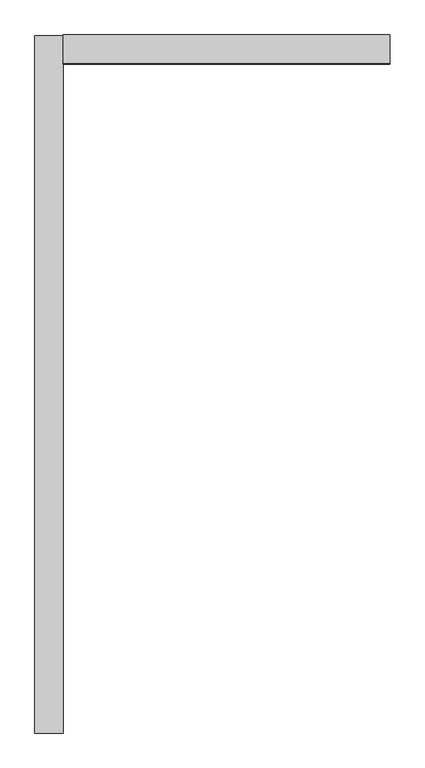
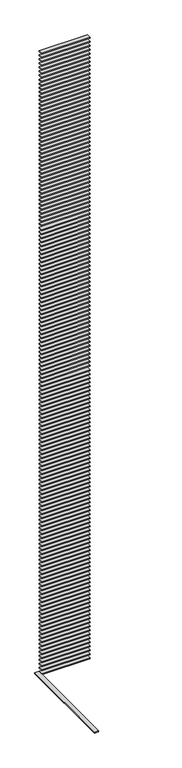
"""IFC4 building model written with IfcOpenShell, lengths in millimetres: proxy geometry, 水平ルーバー（Ｌ型） : ｈ50ｄ200＠200."""

from ifc_helpers import new_model, si_unit, frame, origin, place, context, project, spatial, polyline, outline, extrude, source, transform, mapped, element, save


def generic_models_a66b474c(model_context):
    return source(origin(), model_context, "Body", "SweptSolid", [
        extrude(outline(polyline([(-100.0, -4895.0), (-300.0, -4895.0), (-300.0, 0.0), (-100.0, 0.0), (-100.0, -4895.0)])), frame((0.0, 0.0, -25.0), z_axis=(0.0, 0.0, 1.0), x_axis=(1.0, 0.0, 0.0)), (0.0, 0.0, 1.0), 50.0),
        extrude(outline(polyline([(-100.0, -200.0), (-100.0, 0.0), (2195.0, 0.0), (2195.0, -200.0), (-100.0, -200.0)])), frame((0.0, 0.0, 30975.0), z_axis=(0.0, 0.0, 1.0), x_axis=(1.0, 0.0, 0.0)), (0.0, 0.0, 1.0), 50.0),
        extrude(outline(polyline([(-100.0, -200.0), (-100.0, 0.0), (2195.0, 0.0), (2195.0, -200.0), (-100.0, -200.0)])), frame((0.0, 0.0, 30775.0), z_axis=(0.0, 0.0, 1.0), x_axis=(1.0, 0.0, 0.0)), (0.0, 0.0, 1.0), 50.0),
        extrude(outline(polyline([(-100.0, -200.0), (-100.0, 0.0), (2195.0, 0.0), (2195.0, -200.0), (-100.0, -200.0)])), frame((0.0, 0.0, 30575.0), z_axis=(0.0, 0.0, 1.0), x_axis=(1.0, 0.0, 0.0)), (0.0, 0.0, 1.0), 50.0),
        extrude(outline(polyline([(-100.0, -200.0), (-100.0, 0.0), (2195.0, 0.0), (2195.0, -200.0), (-100.0, -200.0)])), frame((0.0, 0.0, 30375.0), z_axis=(0.0, 0.0, 1.0), x_axis=(1.0, 0.0, 0.0)), (0.0, 0.0, 1.0), 50.0),
        extrude(outline(polyline([(-100.0, -200.0), (-100.0, 0.0), (2195.0, 0.0), (2195.0, -200.0), (-100.0, -200.0)])), frame((0.0, 0.0, 30175.0), z_axis=(0.0, 0.0, 1.0), x_axis=(1.0, 0.0, 0.0)), (0.0, 0.0, 1.0), 50.0),
        extrude(outline(polyline([(-100.0, -200.0), (-100.0, 0.0), (2195.0, 0.0), (2195.0, -200.0), (-100.0, -200.0)])), frame((0.0, 0.0, 29975.0), z_axis=(0.0, 0.0, 1.0), x_axis=(1.0, 0.0, 0.0)), (0.0, 0.0, 1.0), 50.0),
        extrude(outline(polyline([(-100.0, -200.0), (-100.0, 0.0), (2195.0, 0.0), (2195.0, -200.0), (-100.0, -200.0)])), frame((0.0, 0.0, 29775.0), z_axis=(0.0, 0.0, 1.0), x_axis=(1.0, 0.0, 0.0)), (0.0, 0.0, 1.0), 50.0),
        extrude(outline(polyline([(-100.0, -200.0), (-100.0, 0.0), (2195.0, 0.0), (2195.0, -200.0), (-100.0, -200.0)])), frame((0.0, 0.0, 29575.0), z_axis=(0.0, 0.0, 1.0), x_axis=(1.0, 0.0, 0.0)), (0.0, 0.0, 1.0), 50.0),
        extrude(outline(polyline([(-100.0, -200.0), (-100.0, 0.0), (2195.0, 0.0), (2195.0, -200.0), (-100.0, -200.0)])), frame((0.0, 0.0, 29375.0), z_axis=(0.0, 0.0, 1.0), x_axis=(1.0, 0.0, 0.0)), (0.0, 0.0, 1.0), 50.0),
        extrude(outline(polyline([(-100.0, -200.0), (-100.0, 0.0), (2195.0, 0.0), (2195.0, -200.0), (-100.0, -200.0)])), frame((0.0, 0.0, 29175.0), z_axis=(0.0, 0.0, 1.0), x_axis=(1.0, 0.0, 0.0)), (0.0, 0.0, 1.0), 50.0),
        extrude(outline(polyline([(-100.0, -200.0), (-100.0, 0.0), (2195.0, 0.0), (2195.0, -200.0), (-100.0, -200.0)])), frame((0.0, 0.0, 28975.0), z_axis=(0.0, 0.0, 1.0), x_axis=(1.0, 0.0, 0.0)), (0.0, 0.0, 1.0), 50.0),
        extrude(outline(polyline([(-100.0, -200.0), (-100.0, 0.0), (2195.0, 0.0), (2195.0, -200.0), (-100.0, -200.0)])), frame((0.0, 0.0, 28775.0), z_axis=(0.0, 0.0, 1.0), x_axis=(1.0, 0.0, 0.0)), (0.0, 0.0, 1.0), 50.0),
        extrude(outline(polyline([(-100.0, -200.0), (-100.0, 0.0), (2195.0, 0.0), (2195.0, -200.0), (-100.0, -200.0)])), frame((0.0, 0.0, 28575.0), z_axis=(0.0, 0.0, 1.0), x_axis=(1.0, 0.0, 0.0)), (0.0, 0.0, 1.0), 50.0),
        extrude(outline(polyline([(-100.0, -200.0), (-100.0, 0.0), (2195.0, 0.0), (2195.0, -200.0), (-100.0, -200.0)])), frame((0.0, 0.0, 28375.0), z_axis=(0.0, 0.0, 1.0), x_axis=(1.0, 0.0, 0.0)), (0.0, 0.0, 1.0), 50.0),
        extrude(outline(polyline([(-100.0, -200.0), (-100.0, 0.0), (2195.0, 0.0), (2195.0, -200.0), (-100.0, -200.0)])), frame((0.0, 0.0, 28175.0), z_axis=(0.0, 0.0, 1.0), x_axis=(1.0, 0.0, 0.0)), (0.0, 0.0, 1.0), 50.0),
        extrude(outline(polyline([(-100.0, -200.0), (-100.0, 0.0), (2195.0, 0.0), (2195.0, -200.0), (-100.0, -200.0)])), frame((0.0, 0.0, 27975.0), z_axis=(0.0, 0.0, 1.0), x_axis=(1.0, 0.0, 0.0)), (0.0, 0.0, 1.0), 50.0),
        extrude(outline(polyline([(-100.0, -200.0), (-100.0, 0.0), (2195.0, 0.0), (2195.0, -200.0), (-100.0, -200.0)])), frame((0.0, 0.0, 27775.0), z_axis=(0.0, 0.0, 1.0), x_axis=(1.0, 0.0, 0.0)), (0.0, 0.0, 1.0), 50.0),
        extrude(outline(polyline([(-100.0, -200.0), (-100.0, 0.0), (2195.0, 0.0), (2195.0, -200.0), (-100.0, -200.0)])), frame((0.0, 0.0, 27575.0), z_axis=(0.0, 0.0, 1.0), x_axis=(1.0, 0.0, 0.0)), (0.0, 0.0, 1.0), 50.0),
        extrude(outline(polyline([(-100.0, -200.0), (-100.0, 0.0), (2195.0, 0.0), (2195.0, -200.0), (-100.0, -200.0)])), frame((0.0, 0.0, 27375.0), z_axis=(0.0, 0.0, 1.0), x_axis=(1.0, 0.0, 0.0)), (0.0, 0.0, 1.0), 50.0),
        extrude(outline(polyline([(-100.0, -200.0), (-100.0, 0.0), (2195.0, 0.0), (2195.0, -200.0), (-100.0, -200.0)])), frame((0.0, 0.0, 27175.0), z_axis=(0.0, 0.0, 1.0), x_axis=(1.0, 0.0, 0.0)), (0.0, 0.0, 1.0), 50.0),
        extrude(outline(polyline([(-100.0, -200.0), (-100.0, 0.0), (2195.0, 0.0), (2195.0, -200.0), (-100.0, -200.0)])), frame((0.0, 0.0, 26975.0), z_axis=(0.0, 0.0, 1.0), x_axis=(1.0, 0.0, 0.0)), (0.0, 0.0, 1.0), 50.0),
        extrude(outline(polyline([(-100.0, -200.0), (-100.0, 0.0), (2195.0, 0.0), (2195.0, -200.0), (-100.0, -200.0)])), frame((0.0, 0.0, 26775.0), z_axis=(0.0, 0.0, 1.0), x_axis=(1.0, 0.0, 0.0)), (0.0, 0.0, 1.0), 50.0),
        extrude(outline(polyline([(-100.0, -200.0), (-100.0, 0.0), (2195.0, 0.0), (2195.0, -200.0), (-100.0, -200.0)])), frame((0.0, 0.0, 26575.0), z_axis=(0.0, 0.0, 1.0), x_axis=(1.0, 0.0, 0.0)), (0.0, 0.0, 1.0), 50.0),
        extrude(outline(polyline([(-100.0, -200.0), (-100.0, 0.0), (2195.0, 0.0), (2195.0, -200.0), (-100.0, -200.0)])), frame((0.0, 0.0, 26375.0), z_axis=(0.0, 0.0, 1.0), x_axis=(1.0, 0.0, 0.0)), (0.0, 0.0, 1.0), 50.0),
        extrude(outline(polyline([(-100.0, -200.0), (-100.0, 0.0), (2195.0, 0.0), (2195.0, -200.0), (-100.0, -200.0)])), frame((0.0, 0.0, 26175.0), z_axis=(0.0, 0.0, 1.0), x_axis=(1.0, 0.0, 0.0)), (0.0, 0.0, 1.0), 50.0),
        extrude(outline(polyline([(-100.0, -200.0), (-100.0, 0.0), (2195.0, 0.0), (2195.0, -200.0), (-100.0, -200.0)])), frame((0.0, 0.0, 25975.0), z_axis=(0.0, 0.0, 1.0), x_axis=(1.0, 0.0, 0.0)), (0.0, 0.0, 1.0), 50.0),
        extrude(outline(polyline([(-100.0, -200.0), (-100.0, 0.0), (2195.0, 0.0), (2195.0, -200.0), (-100.0, -200.0)])), frame((0.0, 0.0, 25775.0), z_axis=(0.0, 0.0, 1.0), x_axis=(1.0, 0.0, 0.0)), (0.0, 0.0, 1.0), 50.0),
        extrude(outline(polyline([(-100.0, -200.0), (-100.0, 0.0), (2195.0, 0.0), (2195.0, -200.0), (-100.0, -200.0)])), frame((0.0, 0.0, 25575.0), z_axis=(0.0, 0.0, 1.0), x_axis=(1.0, 0.0, 0.0)), (0.0, 0.0, 1.0), 50.0),
        extrude(outline(polyline([(-100.0, -200.0), (-100.0, 0.0), (2195.0, 0.0), (2195.0, -200.0), (-100.0, -200.0)])), frame((0.0, 0.0, 25375.0), z_axis=(0.0, 0.0, 1.0), x_axis=(1.0, 0.0, 0.0)), (0.0, 0.0, 1.0), 50.0),
        extrude(outline(polyline([(-100.0, -200.0), (-100.0, 0.0), (2195.0, 0.0), (2195.0, -200.0), (-100.0, -200.0)])), frame((0.0, 0.0, 25175.0), z_axis=(0.0, 0.0, 1.0), x_axis=(1.0, 0.0, 0.0)), (0.0, 0.0, 1.0), 50.0),
        extrude(outline(polyline([(-100.0, -200.0), (-100.0, 0.0), (2195.0, 0.0), (2195.0, -200.0), (-100.0, -200.0)])), frame((0.0, 0.0, 24975.0), z_axis=(0.0, 0.0, 1.0), x_axis=(1.0, 0.0, 0.0)), (0.0, 0.0, 1.0), 50.0),
        extrude(outline(polyline([(-100.0, -200.0), (-100.0, 0.0), (2195.0, 0.0), (2195.0, -200.0), (-100.0, -200.0)])), frame((0.0, 0.0, 24775.0), z_axis=(0.0, 0.0, 1.0), x_axis=(1.0, 0.0, 0.0)), (0.0, 0.0, 1.0), 50.0),
        extrude(outline(polyline([(-100.0, -200.0), (-100.0, 0.0), (2195.0, 0.0), (2195.0, -200.0), (-100.0, -200.0)])), frame((0.0, 0.0, 24575.0), z_axis=(0.0, 0.0, 1.0), x_axis=(1.0, 0.0, 0.0)), (0.0, 0.0, 1.0), 50.0),
        extrude(outline(polyline([(-100.0, -200.0), (-100.0, 0.0), (2195.0, 0.0), (2195.0, -200.0), (-100.0, -200.0)])), frame((0.0, 0.0, 24375.0), z_axis=(0.0, 0.0, 1.0), x_axis=(1.0, 0.0, 0.0)), (0.0, 0.0, 1.0), 50.0),
        extrude(outline(polyline([(-100.0, -200.0), (-100.0, 0.0), (2195.0, 0.0), (2195.0, -200.0), (-100.0, -200.0)])), frame((0.0, 0.0, 24175.0), z_axis=(0.0, 0.0, 1.0), x_axis=(1.0, 0.0, 0.0)), (0.0, 0.0, 1.0), 50.0),
        extrude(outline(polyline([(-100.0, -200.0), (-100.0, 0.0), (2195.0, 0.0), (2195.0, -200.0), (-100.0, -200.0)])), frame((0.0, 0.0, 23975.0), z_axis=(0.0, 0.0, 1.0), x_axis=(1.0, 0.0, 0.0)), (0.0, 0.0, 1.0), 50.0),
        extrude(outline(polyline([(-100.0, -200.0), (-100.0, 0.0), (2195.0, 0.0), (2195.0, -200.0), (-100.0, -200.0)])), frame((0.0, 0.0, 23775.0), z_axis=(0.0, 0.0, 1.0), x_axis=(1.0, 0.0, 0.0)), (0.0, 0.0, 1.0), 50.0),
        extrude(outline(polyline([(-100.0, -200.0), (-100.0, 0.0), (2195.0, 0.0), (2195.0, -200.0), (-100.0, -200.0)])), frame((0.0, 0.0, 23575.0), z_axis=(0.0, 0.0, 1.0), x_axis=(1.0, 0.0, 0.0)), (0.0, 0.0, 1.0), 50.0),
        extrude(outline(polyline([(-100.0, -200.0), (-100.0, 0.0), (2195.0, 0.0), (2195.0, -200.0), (-100.0, -200.0)])), frame((0.0, 0.0, 23375.0), z_axis=(0.0, 0.0, 1.0), x_axis=(1.0, 0.0, 0.0)), (0.0, 0.0, 1.0), 50.0),
        extrude(outline(polyline([(-100.0, -200.0), (-100.0, 0.0), (2195.0, 0.0), (2195.0, -200.0), (-100.0, -200.0)])), frame((0.0, 0.0, 23175.0), z_axis=(0.0, 0.0, 1.0), x_axis=(1.0, 0.0, 0.0)), (0.0, 0.0, 1.0), 50.0),
        extrude(outline(polyline([(-100.0, -200.0), (-100.0, 0.0), (2195.0, 0.0), (2195.0, -200.0), (-100.0, -200.0)])), frame((0.0, 0.0, 22975.0), z_axis=(0.0, 0.0, 1.0), x_axis=(1.0, 0.0, 0.0)), (0.0, 0.0, 1.0), 50.0),
        extrude(outline(polyline([(-100.0, -200.0), (-100.0, 0.0), (2195.0, 0.0), (2195.0, -200.0), (-100.0, -200.0)])), frame((0.0, 0.0, 22775.0), z_axis=(0.0, 0.0, 1.0), x_axis=(1.0, 0.0, 0.0)), (0.0, 0.0, 1.0), 50.0),
        extrude(outline(polyline([(-100.0, -200.0), (-100.0, 0.0), (2195.0, 0.0), (2195.0, -200.0), (-100.0, -200.0)])), frame((0.0, 0.0, 22575.0), z_axis=(0.0, 0.0, 1.0), x_axis=(1.0, 0.0, 0.0)), (0.0, 0.0, 1.0), 50.0),
        extrude(outline(polyline([(-100.0, -200.0), (-100.0, 0.0), (2195.0, 0.0), (2195.0, -200.0), (-100.0, -200.0)])), frame((0.0, 0.0, 22375.0), z_axis=(0.0, 0.0, 1.0), x_axis=(1.0, 0.0, 0.0)), (0.0, 0.0, 1.0), 50.0),
        extrude(outline(polyline([(-100.0, -200.0), (-100.0, 0.0), (2195.0, 0.0), (2195.0, -200.0), (-100.0, -200.0)])), frame((0.0, 0.0, 22175.0), z_axis=(0.0, 0.0, 1.0), x_axis=(1.0, 0.0, 0.0)), (0.0, 0.0, 1.0), 50.0),
        extrude(outline(polyline([(-100.0, -200.0), (-100.0, 0.0), (2195.0, 0.0), (2195.0, -200.0), (-100.0, -200.0)])), frame((0.0, 0.0, 21975.0), z_axis=(0.0, 0.0, 1.0), x_axis=(1.0, 0.0, 0.0)), (0.0, 0.0, 1.0), 50.0),
        extrude(outline(polyline([(-100.0, -200.0), (-100.0, 0.0), (2195.0, 0.0), (2195.0, -200.0), (-100.0, -200.0)])), frame((0.0, 0.0, 21775.0), z_axis=(0.0, 0.0, 1.0), x_axis=(1.0, 0.0, 0.0)), (0.0, 0.0, 1.0), 50.0),
        extrude(outline(polyline([(-100.0, -200.0), (-100.0, 0.0), (2195.0, 0.0), (2195.0, -200.0), (-100.0, -200.0)])), frame((0.0, 0.0, 21575.0), z_axis=(0.0, 0.0, 1.0), x_axis=(1.0, 0.0, 0.0)), (0.0, 0.0, 1.0), 50.0),
        extrude(outline(polyline([(-100.0, -200.0), (-100.0, 0.0), (2195.0, 0.0), (2195.0, -200.0), (-100.0, -200.0)])), frame((0.0, 0.0, 21375.0), z_axis=(0.0, 0.0, 1.0), x_axis=(1.0, 0.0, 0.0)), (0.0, 0.0, 1.0), 50.0),
        extrude(outline(polyline([(-100.0, -200.0), (-100.0, 0.0), (2195.0, 0.0), (2195.0, -200.0), (-100.0, -200.0)])), frame((0.0, 0.0, 21175.0), z_axis=(0.0, 0.0, 1.0), x_axis=(1.0, 0.0, 0.0)), (0.0, 0.0, 1.0), 50.0),
        extrude(outline(polyline([(-100.0, -200.0), (-100.0, 0.0), (2195.0, 0.0), (2195.0, -200.0), (-100.0, -200.0)])), frame((0.0, 0.0, 20975.0), z_axis=(0.0, 0.0, 1.0), x_axis=(1.0, 0.0, 0.0)), (0.0, 0.0, 1.0), 50.0),
        extrude(outline(polyline([(-100.0, -200.0), (-100.0, 0.0), (2195.0, 0.0), (2195.0, -200.0), (-100.0, -200.0)])), frame((0.0, 0.0, 20775.0), z_axis=(0.0, 0.0, 1.0), x_axis=(1.0, 0.0, 0.0)), (0.0, 0.0, 1.0), 50.0),
        extrude(outline(polyline([(-100.0, -200.0), (-100.0, 0.0), (2195.0, 0.0), (2195.0, -200.0), (-100.0, -200.0)])), frame((0.0, 0.0, 20575.0), z_axis=(0.0, 0.0, 1.0), x_axis=(1.0, 0.0, 0.0)), (0.0, 0.0, 1.0), 50.0),
        extrude(outline(polyline([(-100.0, -200.0), (-100.0, 0.0), (2195.0, 0.0), (2195.0, -200.0), (-100.0, -200.0)])), frame((0.0, 0.0, 20375.0), z_axis=(0.0, 0.0, 1.0), x_axis=(1.0, 0.0, 0.0)), (0.0, 0.0, 1.0), 50.0),
        extrude(outline(polyline([(-100.0, -200.0), (-100.0, 0.0), (2195.0, 0.0), (2195.0, -200.0), (-100.0, -200.0)])), frame((0.0, 0.0, 20175.0), z_axis=(0.0, 0.0, 1.0), x_axis=(1.0, 0.0, 0.0)), (0.0, 0.0, 1.0), 50.0),
        extrude(outline(polyline([(-100.0, -200.0), (-100.0, 0.0), (2195.0, 0.0), (2195.0, -200.0), (-100.0, -200.0)])), frame((0.0, 0.0, 19975.0), z_axis=(0.0, 0.0, 1.0), x_axis=(1.0, 0.0, 0.0)), (0.0, 0.0, 1.0), 50.0),
        extrude(outline(polyline([(-100.0, -200.0), (-100.0, 0.0), (2195.0, 0.0), (2195.0, -200.0), (-100.0, -200.0)])), frame((0.0, 0.0, 19775.0), z_axis=(0.0, 0.0, 1.0), x_axis=(1.0, 0.0, 0.0)), (0.0, 0.0, 1.0), 50.0),
        extrude(outline(polyline([(-100.0, -200.0), (-100.0, 0.0), (2195.0, 0.0), (2195.0, -200.0), (-100.0, -200.0)])), frame((0.0, 0.0, 19575.0), z_axis=(0.0, 0.0, 1.0), x_axis=(1.0, 0.0, 0.0)), (0.0, 0.0, 1.0), 50.0),
        extrude(outline(polyline([(-100.0, -200.0), (-100.0, 0.0), (2195.0, 0.0), (2195.0, -200.0), (-100.0, -200.0)])), frame((0.0, 0.0, 19375.0), z_axis=(0.0, 0.0, 1.0), x_axis=(1.0, 0.0, 0.0)), (0.0, 0.0, 1.0), 50.0),
        extrude(outline(polyline([(-100.0, -200.0), (-100.0, 0.0), (2195.0, 0.0), (2195.0, -200.0), (-100.0, -200.0)])), frame((0.0, 0.0, 19175.0), z_axis=(0.0, 0.0, 1.0), x_axis=(1.0, 0.0, 0.0)), (0.0, 0.0, 1.0), 50.0),
        extrude(outline(polyline([(-100.0, -200.0), (-100.0, 0.0), (2195.0, 0.0), (2195.0, -200.0), (-100.0, -200.0)])), frame((0.0, 0.0, 18975.0), z_axis=(0.0, 0.0, 1.0), x_axis=(1.0, 0.0, 0.0)), (0.0, 0.0, 1.0), 50.0),
        extrude(outline(polyline([(-100.0, -200.0), (-100.0, 0.0), (2195.0, 0.0), (2195.0, -200.0), (-100.0, -200.0)])), frame((0.0, 0.0, 18775.0), z_axis=(0.0, 0.0, 1.0), x_axis=(1.0, 0.0, 0.0)), (0.0, 0.0, 1.0), 50.0),
        extrude(outline(polyline([(-100.0, -200.0), (-100.0, 0.0), (2195.0, 0.0), (2195.0, -200.0), (-100.0, -200.0)])), frame((0.0, 0.0, 18575.0), z_axis=(0.0, 0.0, 1.0), x_axis=(1.0, 0.0, 0.0)), (0.0, 0.0, 1.0), 50.0),
        extrude(outline(polyline([(-100.0, -200.0), (-100.0, 0.0), (2195.0, 0.0), (2195.0, -200.0), (-100.0, -200.0)])), frame((0.0, 0.0, 18375.0), z_axis=(0.0, 0.0, 1.0), x_axis=(1.0, 0.0, 0.0)), (0.0, 0.0, 1.0), 50.0),
        extrude(outline(polyline([(-100.0, -200.0), (-100.0, 0.0), (2195.0, 0.0), (2195.0, -200.0), (-100.0, -200.0)])), frame((0.0, 0.0, 18175.0), z_axis=(0.0, 0.0, 1.0), x_axis=(1.0, 0.0, 0.0)), (0.0, 0.0, 1.0), 50.0),
        extrude(outline(polyline([(-100.0, -200.0), (-100.0, 0.0), (2195.0, 0.0), (2195.0, -200.0), (-100.0, -200.0)])), frame((0.0, 0.0, 17975.0), z_axis=(0.0, 0.0, 1.0), x_axis=(1.0, 0.0, 0.0)), (0.0, 0.0, 1.0), 50.0),
        extrude(outline(polyline([(-100.0, -200.0), (-100.0, 0.0), (2195.0, 0.0), (2195.0, -200.0), (-100.0, -200.0)])), frame((0.0, 0.0, 17775.0), z_axis=(0.0, 0.0, 1.0), x_axis=(1.0, 0.0, 0.0)), (0.0, 0.0, 1.0), 50.0),
        extrude(outline(polyline([(-100.0, -200.0), (-100.0, 0.0), (2195.0, 0.0), (2195.0, -200.0), (-100.0, -200.0)])), frame((0.0, 0.0, 17575.0), z_axis=(0.0, 0.0, 1.0), x_axis=(1.0, 0.0, 0.0)), (0.0, 0.0, 1.0), 50.0),
        extrude(outline(polyline([(-100.0, -200.0), (-100.0, 0.0), (2195.0, 0.0), (2195.0, -200.0), (-100.0, -200.0)])), frame((0.0, 0.0, 17375.0), z_axis=(0.0, 0.0, 1.0), x_axis=(1.0, 0.0, 0.0)), (0.0, 0.0, 1.0), 50.0),
        extrude(outline(polyline([(-100.0, -200.0), (-100.0, 0.0), (2195.0, 0.0), (2195.0, -200.0), (-100.0, -200.0)])), frame((0.0, 0.0, 17175.0), z_axis=(0.0, 0.0, 1.0), x_axis=(1.0, 0.0, 0.0)), (0.0, 0.0, 1.0), 50.0),
        extrude(outline(polyline([(-100.0, -200.0), (-100.0, 0.0), (2195.0, 0.0), (2195.0, -200.0), (-100.0, -200.0)])), frame((0.0, 0.0, 16975.0), z_axis=(0.0, 0.0, 1.0), x_axis=(1.0, 0.0, 0.0)), (0.0, 0.0, 1.0), 50.0),
        extrude(outline(polyline([(-100.0, -200.0), (-100.0, 0.0), (2195.0, 0.0), (2195.0, -200.0), (-100.0, -200.0)])), frame((0.0, 0.0, 16775.0), z_axis=(0.0, 0.0, 1.0), x_axis=(1.0, 0.0, 0.0)), (0.0, 0.0, 1.0), 50.0),
        extrude(outline(polyline([(-100.0, -200.0), (-100.0, 0.0), (2195.0, 0.0), (2195.0, -200.0), (-100.0, -200.0)])), frame((0.0, 0.0, 16575.0), z_axis=(0.0, 0.0, 1.0), x_axis=(1.0, 0.0, 0.0)), (0.0, 0.0, 1.0), 50.0),
        extrude(outline(polyline([(-100.0, -200.0), (-100.0, 0.0), (2195.0, 0.0), (2195.0, -200.0), (-100.0, -200.0)])), frame((0.0, 0.0, 16375.0), z_axis=(0.0, 0.0, 1.0), x_axis=(1.0, 0.0, 0.0)), (0.0, 0.0, 1.0), 50.0),
        extrude(outline(polyline([(-100.0, -200.0), (-100.0, 0.0), (2195.0, 0.0), (2195.0, -200.0), (-100.0, -200.0)])), frame((0.0, 0.0, 16175.0), z_axis=(0.0, 0.0, 1.0), x_axis=(1.0, 0.0, 0.0)), (0.0, 0.0, 1.0), 50.0),
        extrude(outline(polyline([(-100.0, -200.0), (-100.0, 0.0), (2195.0, 0.0), (2195.0, -200.0), (-100.0, -200.0)])), frame((0.0, 0.0, 15975.0), z_axis=(0.0, 0.0, 1.0), x_axis=(1.0, 0.0, 0.0)), (0.0, 0.0, 1.0), 50.0),
        extrude(outline(polyline([(-100.0, -200.0), (-100.0, 0.0), (2195.0, 0.0), (2195.0, -200.0), (-100.0, -200.0)])), frame((0.0, 0.0, 15775.0), z_axis=(0.0, 0.0, 1.0), x_axis=(1.0, 0.0, 0.0)), (0.0, 0.0, 1.0), 50.0),
        extrude(outline(polyline([(-100.0, -200.0), (-100.0, 0.0), (2195.0, 0.0), (2195.0, -200.0), (-100.0, -200.0)])), frame((0.0, 0.0, 15575.0), z_axis=(0.0, 0.0, 1.0), x_axis=(1.0, 0.0, 0.0)), (0.0, 0.0, 1.0), 50.0),
        extrude(outline(polyline([(-100.0, -200.0), (-100.0, 0.0), (2195.0, 0.0), (2195.0, -200.0), (-100.0, -200.0)])), frame((0.0, 0.0, 15375.0), z_axis=(0.0, 0.0, 1.0), x_axis=(1.0, 0.0, 0.0)), (0.0, 0.0, 1.0), 50.0),
        extrude(outline(polyline([(-100.0, -200.0), (-100.0, 0.0), (2195.0, 0.0), (2195.0, -200.0), (-100.0, -200.0)])), frame((0.0, 0.0, 15175.0), z_axis=(0.0, 0.0, 1.0), x_axis=(1.0, 0.0, 0.0)), (0.0, 0.0, 1.0), 50.0),
        extrude(outline(polyline([(-100.0, -200.0), (-100.0, 0.0), (2195.0, 0.0), (2195.0, -200.0), (-100.0, -200.0)])), frame((0.0, 0.0, 14975.0), z_axis=(0.0, 0.0, 1.0), x_axis=(1.0, 0.0, 0.0)), (0.0, 0.0, 1.0), 50.0),
        extrude(outline(polyline([(-100.0, -200.0), (-100.0, 0.0), (2195.0, 0.0), (2195.0, -200.0), (-100.0, -200.0)])), frame((0.0, 0.0, 14775.0), z_axis=(0.0, 0.0, 1.0), x_axis=(1.0, 0.0, 0.0)), (0.0, 0.0, 1.0), 50.0),
        extrude(outline(polyline([(-100.0, -200.0), (-100.0, 0.0), (2195.0, 0.0), (2195.0, -200.0), (-100.0, -200.0)])), frame((0.0, 0.0, 14575.0), z_axis=(0.0, 0.0, 1.0), x_axis=(1.0, 0.0, 0.0)), (0.0, 0.0, 1.0), 50.0),
        extrude(outline(polyline([(-100.0, -200.0), (-100.0, 0.0), (2195.0, 0.0), (2195.0, -200.0), (-100.0, -200.0)])), frame((0.0, 0.0, 14375.0), z_axis=(0.0, 0.0, 1.0), x_axis=(1.0, 0.0, 0.0)), (0.0, 0.0, 1.0), 50.0),
        extrude(outline(polyline([(-100.0, -200.0), (-100.0, 0.0), (2195.0, 0.0), (2195.0, -200.0), (-100.0, -200.0)])), frame((0.0, 0.0, 14175.0), z_axis=(0.0, 0.0, 1.0), x_axis=(1.0, 0.0, 0.0)), (0.0, 0.0, 1.0), 50.0),
        extrude(outline(polyline([(-100.0, -200.0), (-100.0, 0.0), (2195.0, 0.0), (2195.0, -200.0), (-100.0, -200.0)])), frame((0.0, 0.0, 13975.0), z_axis=(0.0, 0.0, 1.0), x_axis=(1.0, 0.0, 0.0)), (0.0, 0.0, 1.0), 50.0),
        extrude(outline(polyline([(-100.0, -200.0), (-100.0, 0.0), (2195.0, 0.0), (2195.0, -200.0), (-100.0, -200.0)])), frame((0.0, 0.0, 13775.0), z_axis=(0.0, 0.0, 1.0), x_axis=(1.0, 0.0, 0.0)), (0.0, 0.0, 1.0), 50.0),
        extrude(outline(polyline([(-100.0, -200.0), (-100.0, 0.0), (2195.0, 0.0), (2195.0, -200.0), (-100.0, -200.0)])), frame((0.0, 0.0, 13575.0), z_axis=(0.0, 0.0, 1.0), x_axis=(1.0, 0.0, 0.0)), (0.0, 0.0, 1.0), 50.0),
        extrude(outline(polyline([(-100.0, -200.0), (-100.0, 0.0), (2195.0, 0.0), (2195.0, -200.0), (-100.0, -200.0)])), frame((0.0, 0.0, 13375.0), z_axis=(0.0, 0.0, 1.0), x_axis=(1.0, 0.0, 0.0)), (0.0, 0.0, 1.0), 50.0),
        extrude(outline(polyline([(-100.0, -200.0), (-100.0, 0.0), (2195.0, 0.0), (2195.0, -200.0), (-100.0, -200.0)])), frame((0.0, 0.0, 13175.0), z_axis=(0.0, 0.0, 1.0), x_axis=(1.0, 0.0, 0.0)), (0.0, 0.0, 1.0), 50.0),
        extrude(outline(polyline([(-100.0, -200.0), (-100.0, 0.0), (2195.0, 0.0), (2195.0, -200.0), (-100.0, -200.0)])), frame((0.0, 0.0, 12975.0), z_axis=(0.0, 0.0, 1.0), x_axis=(1.0, 0.0, 0.0)), (0.0, 0.0, 1.0), 50.0),
        extrude(outline(polyline([(-100.0, -200.0), (-100.0, 0.0), (2195.0, 0.0), (2195.0, -200.0), (-100.0, -200.0)])), frame((0.0, 0.0, 12775.0), z_axis=(0.0, 0.0, 1.0), x_axis=(1.0, 0.0, 0.0)), (0.0, 0.0, 1.0), 50.0),
        extrude(outline(polyline([(-100.0, -200.0), (-100.0, 0.0), (2195.0, 0.0), (2195.0, -200.0), (-100.0, -200.0)])), frame((0.0, 0.0, 12575.0), z_axis=(0.0, 0.0, 1.0), x_axis=(1.0, 0.0, 0.0)), (0.0, 0.0, 1.0), 50.0),
        extrude(outline(polyline([(-100.0, -200.0), (-100.0, 0.0), (2195.0, 0.0), (2195.0, -200.0), (-100.0, -200.0)])), frame((0.0, 0.0, 12375.0), z_axis=(0.0, 0.0, 1.0), x_axis=(1.0, 0.0, 0.0)), (0.0, 0.0, 1.0), 50.0),
        extrude(outline(polyline([(-100.0, -200.0), (-100.0, 0.0), (2195.0, 0.0), (2195.0, -200.0), (-100.0, -200.0)])), frame((0.0, 0.0, 12175.0), z_axis=(0.0, 0.0, 1.0), x_axis=(1.0, 0.0, 0.0)), (0.0, 0.0, 1.0), 50.0),
        extrude(outline(polyline([(-100.0, -200.0), (-100.0, 0.0), (2195.0, 0.0), (2195.0, -200.0), (-100.0, -200.0)])), frame((0.0, 0.0, 11975.0), z_axis=(0.0, 0.0, 1.0), x_axis=(1.0, 0.0, 0.0)), (0.0, 0.0, 1.0), 50.0),
        extrude(outline(polyline([(-100.0, -200.0), (-100.0, 0.0), (2195.0, 0.0), (2195.0, -200.0), (-100.0, -200.0)])), frame((0.0, 0.0, 11775.0), z_axis=(0.0, 0.0, 1.0), x_axis=(1.0, 0.0, 0.0)), (0.0, 0.0, 1.0), 50.0),
        extrude(outline(polyline([(-100.0, -200.0), (-100.0, 0.0), (2195.0, 0.0), (2195.0, -200.0), (-100.0, -200.0)])), frame((0.0, 0.0, 11575.0), z_axis=(0.0, 0.0, 1.0), x_axis=(1.0, 0.0, 0.0)), (0.0, 0.0, 1.0), 50.0),
        extrude(outline(polyline([(-100.0, -200.0), (-100.0, 0.0), (2195.0, 0.0), (2195.0, -200.0), (-100.0, -200.0)])), frame((0.0, 0.0, 11375.0), z_axis=(0.0, 0.0, 1.0), x_axis=(1.0, 0.0, 0.0)), (0.0, 0.0, 1.0), 50.0),
        extrude(outline(polyline([(-100.0, -200.0), (-100.0, 0.0), (2195.0, 0.0), (2195.0, -200.0), (-100.0, -200.0)])), frame((0.0, 0.0, 11175.0), z_axis=(0.0, 0.0, 1.0), x_axis=(1.0, 0.0, 0.0)), (0.0, 0.0, 1.0), 50.0),
        extrude(outline(polyline([(-100.0, -200.0), (-100.0, 0.0), (2195.0, 0.0), (2195.0, -200.0), (-100.0, -200.0)])), frame((0.0, 0.0, 10975.0), z_axis=(0.0, 0.0, 1.0), x_axis=(1.0, 0.0, 0.0)), (0.0, 0.0, 1.0), 50.0),
        extrude(outline(polyline([(-100.0, -200.0), (-100.0, 0.0), (2195.0, 0.0), (2195.0, -200.0), (-100.0, -200.0)])), frame((0.0, 0.0, 10775.0), z_axis=(0.0, 0.0, 1.0), x_axis=(1.0, 0.0, 0.0)), (0.0, 0.0, 1.0), 50.0),
        extrude(outline(polyline([(-100.0, -200.0), (-100.0, 0.0), (2195.0, 0.0), (2195.0, -200.0), (-100.0, -200.0)])), frame((0.0, 0.0, 10575.0), z_axis=(0.0, 0.0, 1.0), x_axis=(1.0, 0.0, 0.0)), (0.0, 0.0, 1.0), 50.0),
        extrude(outline(polyline([(-100.0, -200.0), (-100.0, 0.0), (2195.0, 0.0), (2195.0, -200.0), (-100.0, -200.0)])), frame((0.0, 0.0, 10375.0), z_axis=(0.0, 0.0, 1.0), x_axis=(1.0, 0.0, 0.0)), (0.0, 0.0, 1.0), 50.0),
        extrude(outline(polyline([(-100.0, -200.0), (-100.0, 0.0), (2195.0, 0.0), (2195.0, -200.0), (-100.0, -200.0)])), frame((0.0, 0.0, 10175.0), z_axis=(0.0, 0.0, 1.0), x_axis=(1.0, 0.0, 0.0)), (0.0, 0.0, 1.0), 50.0),
        extrude(outline(polyline([(-100.0, -200.0), (-100.0, 0.0), (2195.0, 0.0), (2195.0, -200.0), (-100.0, -200.0)])), frame((0.0, 0.0, 9975.0), z_axis=(0.0, 0.0, 1.0), x_axis=(1.0, 0.0, 0.0)), (0.0, 0.0, 1.0), 50.0),
        extrude(outline(polyline([(-100.0, -200.0), (-100.0, 0.0), (2195.0, 0.0), (2195.0, -200.0), (-100.0, -200.0)])), frame((0.0, 0.0, 9775.0), z_axis=(0.0, 0.0, 1.0), x_axis=(1.0, 0.0, 0.0)), (0.0, 0.0, 1.0), 50.0),
        extrude(outline(polyline([(-100.0, -200.0), (-100.0, 0.0), (2195.0, 0.0), (2195.0, -200.0), (-100.0, -200.0)])), frame((0.0, 0.0, 9575.0), z_axis=(0.0, 0.0, 1.0), x_axis=(1.0, 0.0, 0.0)), (0.0, 0.0, 1.0), 50.0),
        extrude(outline(polyline([(-100.0, -200.0), (-100.0, 0.0), (2195.0, 0.0), (2195.0, -200.0), (-100.0, -200.0)])), frame((0.0, 0.0, 9375.0), z_axis=(0.0, 0.0, 1.0), x_axis=(1.0, 0.0, 0.0)), (0.0, 0.0, 1.0), 50.0),
        extrude(outline(polyline([(-100.0, -200.0), (-100.0, 0.0), (2195.0, 0.0), (2195.0, -200.0), (-100.0, -200.0)])), frame((0.0, 0.0, 9175.0), z_axis=(0.0, 0.0, 1.0), x_axis=(1.0, 0.0, 0.0)), (0.0, 0.0, 1.0), 50.0),
        extrude(outline(polyline([(-100.0, -200.0), (-100.0, 0.0), (2195.0, 0.0), (2195.0, -200.0), (-100.0, -200.0)])), frame((0.0, 0.0, 8975.0), z_axis=(0.0, 0.0, 1.0), x_axis=(1.0, 0.0, 0.0)), (0.0, 0.0, 1.0), 50.0),
        extrude(outline(polyline([(-100.0, -200.0), (-100.0, 0.0), (2195.0, 0.0), (2195.0, -200.0), (-100.0, -200.0)])), frame((0.0, 0.0, 8775.0), z_axis=(0.0, 0.0, 1.0), x_axis=(1.0, 0.0, 0.0)), (0.0, 0.0, 1.0), 50.0),
        extrude(outline(polyline([(-100.0, -200.0), (-100.0, 0.0), (2195.0, 0.0), (2195.0, -200.0), (-100.0, -200.0)])), frame((0.0, 0.0, 8575.0), z_axis=(0.0, 0.0, 1.0), x_axis=(1.0, 0.0, 0.0)), (0.0, 0.0, 1.0), 50.0),
        extrude(outline(polyline([(-100.0, -200.0), (-100.0, 0.0), (2195.0, 0.0), (2195.0, -200.0), (-100.0, -200.0)])), frame((0.0, 0.0, 8375.0), z_axis=(0.0, 0.0, 1.0), x_axis=(1.0, 0.0, 0.0)), (0.0, 0.0, 1.0), 50.0),
        extrude(outline(polyline([(-100.0, -200.0), (-100.0, 0.0), (2195.0, 0.0), (2195.0, -200.0), (-100.0, -200.0)])), frame((0.0, 0.0, 8175.0), z_axis=(0.0, 0.0, 1.0), x_axis=(1.0, 0.0, 0.0)), (0.0, 0.0, 1.0), 50.0),
        extrude(outline(polyline([(-100.0, -200.0), (-100.0, 0.0), (2195.0, 0.0), (2195.0, -200.0), (-100.0, -200.0)])), frame((0.0, 0.0, 7975.0), z_axis=(0.0, 0.0, 1.0), x_axis=(1.0, 0.0, 0.0)), (0.0, 0.0, 1.0), 50.0),
        extrude(outline(polyline([(-100.0, -200.0), (-100.0, 0.0), (2195.0, 0.0), (2195.0, -200.0), (-100.0, -200.0)])), frame((0.0, 0.0, 7775.0), z_axis=(0.0, 0.0, 1.0), x_axis=(1.0, 0.0, 0.0)), (0.0, 0.0, 1.0), 50.0),
        extrude(outline(polyline([(-100.0, -200.0), (-100.0, 0.0), (2195.0, 0.0), (2195.0, -200.0), (-100.0, -200.0)])), frame((0.0, 0.0, 7575.0), z_axis=(0.0, 0.0, 1.0), x_axis=(1.0, 0.0, 0.0)), (0.0, 0.0, 1.0), 50.0),
        extrude(outline(polyline([(-100.0, -200.0), (-100.0, 0.0), (2195.0, 0.0), (2195.0, -200.0), (-100.0, -200.0)])), frame((0.0, 0.0, 7375.0), z_axis=(0.0, 0.0, 1.0), x_axis=(1.0, 0.0, 0.0)), (0.0, 0.0, 1.0), 50.0),
        extrude(outline(polyline([(-100.0, -200.0), (-100.0, 0.0), (2195.0, 0.0), (2195.0, -200.0), (-100.0, -200.0)])), frame((0.0, 0.0, 7175.0), z_axis=(0.0, 0.0, 1.0), x_axis=(1.0, 0.0, 0.0)), (0.0, 0.0, 1.0), 50.0),
        extrude(outline(polyline([(-100.0, -200.0), (-100.0, 0.0), (2195.0, 0.0), (2195.0, -200.0), (-100.0, -200.0)])), frame((0.0, 0.0, 6975.0), z_axis=(0.0, 0.0, 1.0), x_axis=(1.0, 0.0, 0.0)), (0.0, 0.0, 1.0), 50.0),
        extrude(outline(polyline([(-100.0, -200.0), (-100.0, 0.0), (2195.0, 0.0), (2195.0, -200.0), (-100.0, -200.0)])), frame((0.0, 0.0, 6775.0), z_axis=(0.0, 0.0, 1.0), x_axis=(1.0, 0.0, 0.0)), (0.0, 0.0, 1.0), 50.0),
        extrude(outline(polyline([(-100.0, -200.0), (-100.0, 0.0), (2195.0, 0.0), (2195.0, -200.0), (-100.0, -200.0)])), frame((0.0, 0.0, 6575.0), z_axis=(0.0, 0.0, 1.0), x_axis=(1.0, 0.0, 0.0)), (0.0, 0.0, 1.0), 50.0),
        extrude(outline(polyline([(-100.0, -200.0), (-100.0, 0.0), (2195.0, 0.0), (2195.0, -200.0), (-100.0, -200.0)])), frame((0.0, 0.0, 6375.0), z_axis=(0.0, 0.0, 1.0), x_axis=(1.0, 0.0, 0.0)), (0.0, 0.0, 1.0), 50.0),
        extrude(outline(polyline([(-100.0, -200.0), (-100.0, 0.0), (2195.0, 0.0), (2195.0, -200.0), (-100.0, -200.0)])), frame((0.0, 0.0, 6175.0), z_axis=(0.0, 0.0, 1.0), x_axis=(1.0, 0.0, 0.0)), (0.0, 0.0, 1.0), 50.0),
        extrude(outline(polyline([(-100.0, -200.0), (-100.0, 0.0), (2195.0, 0.0), (2195.0, -200.0), (-100.0, -200.0)])), frame((0.0, 0.0, 5975.0), z_axis=(0.0, 0.0, 1.0), x_axis=(1.0, 0.0, 0.0)), (0.0, 0.0, 1.0), 50.0),
        extrude(outline(polyline([(-100.0, -200.0), (-100.0, 0.0), (2195.0, 0.0), (2195.0, -200.0), (-100.0, -200.0)])), frame((0.0, 0.0, 5775.0), z_axis=(0.0, 0.0, 1.0), x_axis=(1.0, 0.0, 0.0)), (0.0, 0.0, 1.0), 50.0),
        extrude(outline(polyline([(-100.0, -200.0), (-100.0, 0.0), (2195.0, 0.0), (2195.0, -200.0), (-100.0, -200.0)])), frame((0.0, 0.0, 5575.0), z_axis=(0.0, 0.0, 1.0), x_axis=(1.0, 0.0, 0.0)), (0.0, 0.0, 1.0), 50.0),
        extrude(outline(polyline([(-100.0, -200.0), (-100.0, 0.0), (2195.0, 0.0), (2195.0, -200.0), (-100.0, -200.0)])), frame((0.0, 0.0, 5375.0), z_axis=(0.0, 0.0, 1.0), x_axis=(1.0, 0.0, 0.0)), (0.0, 0.0, 1.0), 50.0),
        extrude(outline(polyline([(-100.0, -200.0), (-100.0, 0.0), (2195.0, 0.0), (2195.0, -200.0), (-100.0, -200.0)])), frame((0.0, 0.0, 5175.0), z_axis=(0.0, 0.0, 1.0), x_axis=(1.0, 0.0, 0.0)), (0.0, 0.0, 1.0), 50.0),
        extrude(outline(polyline([(-100.0, -200.0), (-100.0, 0.0), (2195.0, 0.0), (2195.0, -200.0), (-100.0, -200.0)])), frame((0.0, 0.0, 4975.0), z_axis=(0.0, 0.0, 1.0), x_axis=(1.0, 0.0, 0.0)), (0.0, 0.0, 1.0), 50.0),
        extrude(outline(polyline([(-100.0, -200.0), (-100.0, 0.0), (2195.0, 0.0), (2195.0, -200.0), (-100.0, -200.0)])), frame((0.0, 0.0, 4775.0), z_axis=(0.0, 0.0, 1.0), x_axis=(1.0, 0.0, 0.0)), (0.0, 0.0, 1.0), 50.0),
        extrude(outline(polyline([(-100.0, -200.0), (-100.0, 0.0), (2195.0, 0.0), (2195.0, -200.0), (-100.0, -200.0)])), frame((0.0, 0.0, 4575.0), z_axis=(0.0, 0.0, 1.0), x_axis=(1.0, 0.0, 0.0)), (0.0, 0.0, 1.0), 50.0),
        extrude(outline(polyline([(-100.0, -200.0), (-100.0, 0.0), (2195.0, 0.0), (2195.0, -200.0), (-100.0, -200.0)])), frame((0.0, 0.0, 4375.0), z_axis=(0.0, 0.0, 1.0), x_axis=(1.0, 0.0, 0.0)), (0.0, 0.0, 1.0), 50.0),
        extrude(outline(polyline([(-100.0, -200.0), (-100.0, 0.0), (2195.0, 0.0), (2195.0, -200.0), (-100.0, -200.0)])), frame((0.0, 0.0, 4175.0), z_axis=(0.0, 0.0, 1.0), x_axis=(1.0, 0.0, 0.0)), (0.0, 0.0, 1.0), 50.0),
        extrude(outline(polyline([(-100.0, -200.0), (-100.0, 0.0), (2195.0, 0.0), (2195.0, -200.0), (-100.0, -200.0)])), frame((0.0, 0.0, 3975.0), z_axis=(0.0, 0.0, 1.0), x_axis=(1.0, 0.0, 0.0)), (0.0, 0.0, 1.0), 50.0),
        extrude(outline(polyline([(-100.0, -200.0), (-100.0, 0.0), (2195.0, 0.0), (2195.0, -200.0), (-100.0, -200.0)])), frame((0.0, 0.0, 3775.0), z_axis=(0.0, 0.0, 1.0), x_axis=(1.0, 0.0, 0.0)), (0.0, 0.0, 1.0), 50.0),
        extrude(outline(polyline([(-100.0, -200.0), (-100.0, 0.0), (2195.0, 0.0), (2195.0, -200.0), (-100.0, -200.0)])), frame((0.0, 0.0, 3575.0), z_axis=(0.0, 0.0, 1.0), x_axis=(1.0, 0.0, 0.0)), (0.0, 0.0, 1.0), 50.0),
        extrude(outline(polyline([(-100.0, -200.0), (-100.0, 0.0), (2195.0, 0.0), (2195.0, -200.0), (-100.0, -200.0)])), frame((0.0, 0.0, 3375.0), z_axis=(0.0, 0.0, 1.0), x_axis=(1.0, 0.0, 0.0)), (0.0, 0.0, 1.0), 50.0),
        extrude(outline(polyline([(-100.0, -200.0), (-100.0, 0.0), (2195.0, 0.0), (2195.0, -200.0), (-100.0, -200.0)])), frame((0.0, 0.0, 3175.0), z_axis=(0.0, 0.0, 1.0), x_axis=(1.0, 0.0, 0.0)), (0.0, 0.0, 1.0), 50.0),
        extrude(outline(polyline([(-100.0, -200.0), (-100.0, 0.0), (2195.0, 0.0), (2195.0, -200.0), (-100.0, -200.0)])), frame((0.0, 0.0, 2975.0), z_axis=(0.0, 0.0, 1.0), x_axis=(1.0, 0.0, 0.0)), (0.0, 0.0, 1.0), 50.0),
        extrude(outline(polyline([(-100.0, -200.0), (-100.0, 0.0), (2195.0, 0.0), (2195.0, -200.0), (-100.0, -200.0)])), frame((0.0, 0.0, 2775.0), z_axis=(0.0, 0.0, 1.0), x_axis=(1.0, 0.0, 0.0)), (0.0, 0.0, 1.0), 50.0),
        extrude(outline(polyline([(-100.0, -200.0), (-100.0, 0.0), (2195.0, 0.0), (2195.0, -200.0), (-100.0, -200.0)])), frame((0.0, 0.0, 2575.0), z_axis=(0.0, 0.0, 1.0), x_axis=(1.0, 0.0, 0.0)), (0.0, 0.0, 1.0), 50.0),
        extrude(outline(polyline([(-100.0, -200.0), (-100.0, 0.0), (2195.0, 0.0), (2195.0, -200.0), (-100.0, -200.0)])), frame((0.0, 0.0, 2375.0), z_axis=(0.0, 0.0, 1.0), x_axis=(1.0, 0.0, 0.0)), (0.0, 0.0, 1.0), 50.0),
        extrude(outline(polyline([(-100.0, -200.0), (-100.0, 0.0), (2195.0, 0.0), (2195.0, -200.0), (-100.0, -200.0)])), frame((0.0, 0.0, 2175.0), z_axis=(0.0, 0.0, 1.0), x_axis=(1.0, 0.0, 0.0)), (0.0, 0.0, 1.0), 50.0),
        extrude(outline(polyline([(-100.0, -200.0), (-100.0, 0.0), (2195.0, 0.0), (2195.0, -200.0), (-100.0, -200.0)])), frame((0.0, 0.0, 1975.0), z_axis=(0.0, 0.0, 1.0), x_axis=(1.0, 0.0, 0.0)), (0.0, 0.0, 1.0), 50.0),
        extrude(outline(polyline([(-100.0, -200.0), (-100.0, 0.0), (2195.0, 0.0), (2195.0, -200.0), (-100.0, -200.0)])), frame((0.0, 0.0, 1775.0), z_axis=(0.0, 0.0, 1.0), x_axis=(1.0, 0.0, 0.0)), (0.0, 0.0, 1.0), 50.0),
        extrude(outline(polyline([(-100.0, -200.0), (-100.0, 0.0), (2195.0, 0.0), (2195.0, -200.0), (-100.0, -200.0)])), frame((0.0, 0.0, 1575.0), z_axis=(0.0, 0.0, 1.0), x_axis=(1.0, 0.0, 0.0)), (0.0, 0.0, 1.0), 50.0),
        extrude(outline(polyline([(-100.0, -200.0), (-100.0, 0.0), (2195.0, 0.0), (2195.0, -200.0), (-100.0, -200.0)])), frame((0.0, 0.0, 1375.0), z_axis=(0.0, 0.0, 1.0), x_axis=(1.0, 0.0, 0.0)), (0.0, 0.0, 1.0), 50.0),
        extrude(outline(polyline([(-100.0, -200.0), (-100.0, 0.0), (2195.0, 0.0), (2195.0, -200.0), (-100.0, -200.0)])), frame((0.0, 0.0, 1175.0), z_axis=(0.0, 0.0, 1.0), x_axis=(1.0, 0.0, 0.0)), (0.0, 0.0, 1.0), 50.0),
        extrude(outline(polyline([(-100.0, -200.0), (-100.0, 0.0), (2195.0, 0.0), (2195.0, -200.0), (-100.0, -200.0)])), frame((0.0, 0.0, 975.0), z_axis=(0.0, 0.0, 1.0), x_axis=(1.0, 0.0, 0.0)), (0.0, 0.0, 1.0), 50.0),
        extrude(outline(polyline([(-100.0, -200.0), (-100.0, 0.0), (2195.0, 0.0), (2195.0, -200.0), (-100.0, -200.0)])), frame((0.0, 0.0, 775.0), z_axis=(0.0, 0.0, 1.0), x_axis=(1.0, 0.0, 0.0)), (0.0, 0.0, 1.0), 50.0),
        extrude(outline(polyline([(-100.0, -200.0), (-100.0, 0.0), (2195.0, 0.0), (2195.0, -200.0), (-100.0, -200.0)])), frame((0.0, 0.0, 575.0), z_axis=(0.0, 0.0, 1.0), x_axis=(1.0, 0.0, 0.0)), (0.0, 0.0, 1.0), 50.0),
        extrude(outline(polyline([(-100.0, -200.0), (-100.0, 0.0), (2195.0, 0.0), (2195.0, -200.0), (-100.0, -200.0)])), frame((0.0, 0.0, 375.0), z_axis=(0.0, 0.0, 1.0), x_axis=(1.0, 0.0, 0.0)), (0.0, 0.0, 1.0), 50.0),
        extrude(outline(polyline([(-100.0, -200.0), (-100.0, 0.0), (2195.0, 0.0), (2195.0, -200.0), (-100.0, -200.0)])), frame((0.0, 0.0, 175.0), z_axis=(0.0, 0.0, 1.0), x_axis=(1.0, 0.0, 0.0)), (0.0, 0.0, 1.0), 50.0),
        extrude(outline(polyline([(-100.0, -200.0), (-100.0, 0.0), (2195.0, 0.0), (2195.0, -200.0), (-100.0, -200.0)])), frame((0.0, 0.0, -25.0), z_axis=(0.0, 0.0, 1.0), x_axis=(1.0, 0.0, 0.0)), (0.0, 0.0, 1.0), 50.0),
    ])


if __name__ == "__main__":
    model = new_model("IFC4")
    model_context = context("Model", 3, world=origin())
    ifc_project = project(units=[si_unit("LENGTHUNIT", "METRE", prefix="MILLI")], contexts=[model_context])
    site = spatial("IfcSite", under=ifc_project)
    building = spatial("IfcBuilding", under=site)
    placement = place(None, origin())
    generic_models_shape = generic_models_a66b474c(model_context)
    element("IfcBuildingElementProxy", 1, Name="水平ルーバー（Ｌ型） : ｈ50ｄ200＠200", ObjectType="水平ルーバー（Ｌ型） : ｈ50ｄ200＠200", at=placement, inside=building, context=model_context, shape_type="MappedRepresentation", body=[
        mapped(generic_models_shape, transform((0.0, 0.0, 0.0), x_axis=(1.0, 0.0, 0.0), y_axis=(0.0, 1.0, 0.0), z_axis=(0.0, 0.0, 1.0))),
    ])
    save(model, "model.ifc")
